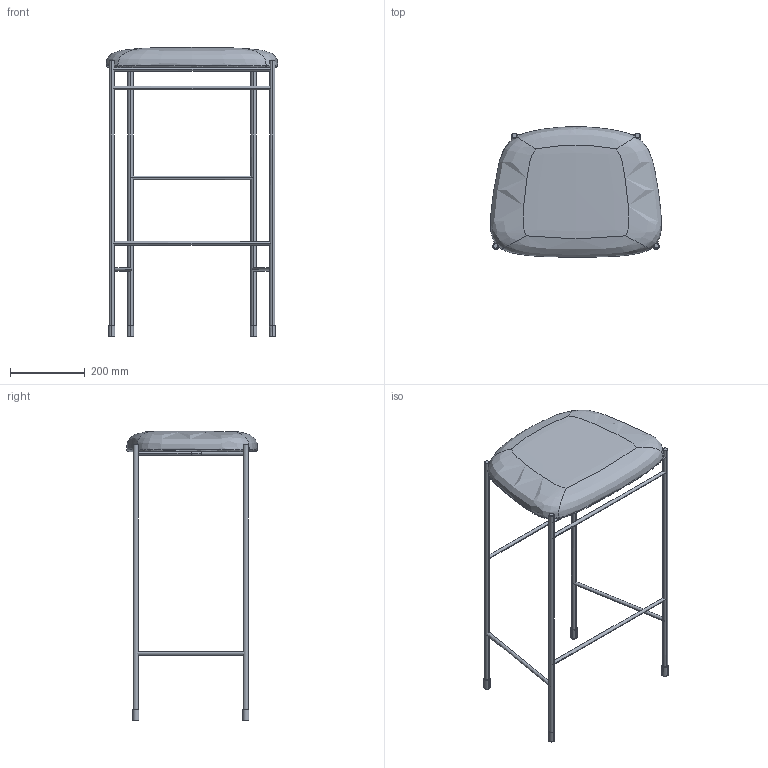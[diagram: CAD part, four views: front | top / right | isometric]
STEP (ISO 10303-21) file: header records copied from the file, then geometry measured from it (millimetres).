
FILE_DESCRIPTION(/* description */ (''),/* implementation_level */ '2;1');
FILE_NAME(/* name */ 'Covent Bar Stool 75',/* time_stamp */ '2019-04-16T16:29:40+02:00',/* author */ (''),/* organization */ (''),/* preprocessor_version */ 'ST-DEVELOPER v15',/* originating_system */ '',/* authorisation */ '');
FILE_SCHEMA (('AUTOMOTIVE_DESIGN'));
Length unit declared in the file: millimetre
Products named in the file (11): Document; Component3; Component16; Component6; Component4; Component8; Component12; Component9; Component10; Component5; Component15
Assembly tree (10 placements, depth 2):
  Document
    Component3
    Component16
    Component6
    Component4
    Component8
    Component12
    Component9
    Component10
    Component5
    Component15
Bounding box: 458.83 x 350.78 x 774.79 mm (x, y, z)
Volume: 8610324.3 mm3; surface area: 841412.2 mm2
Topology: 17 solids, 22 shells, 108 faces, 246 edges, 176 vertices
Faces by surface type: bspline 74, plane 34
Entity records: 7101 total; most frequent: CARTESIAN_POINT 5113, ORIENTED_EDGE 470, EDGE_CURVE 246, VERTEX_POINT 176, EDGE_LOOP 116, ADVANCED_FACE 108, FACE_OUTER_BOUND 108, DIRECTION 100
